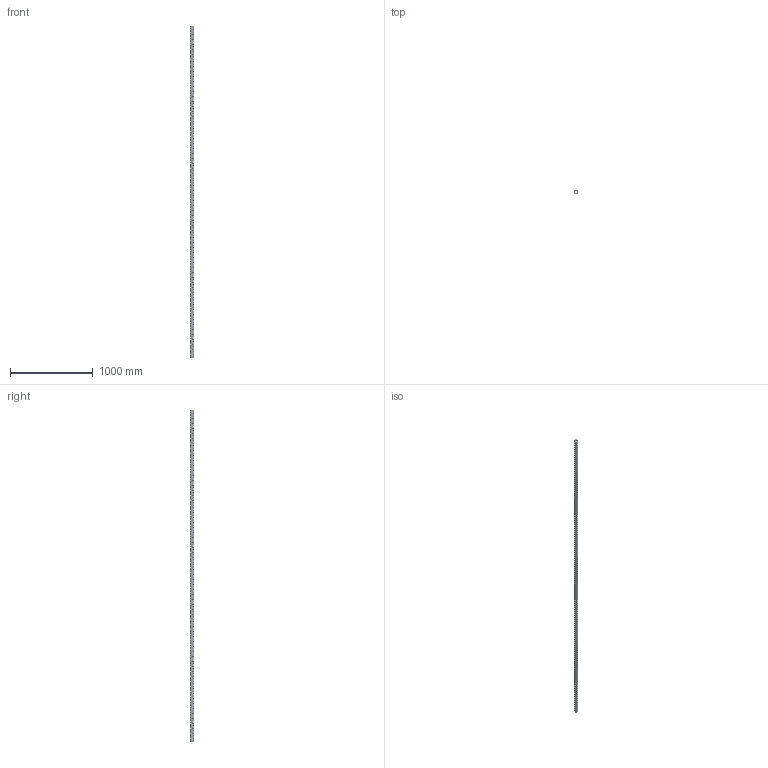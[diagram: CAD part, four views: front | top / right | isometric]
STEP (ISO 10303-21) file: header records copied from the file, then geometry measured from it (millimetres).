
FILE_DESCRIPTION(('CATIA V5 STEP Exchange'),'2;1');
FILE_NAME('U:\Room\唐宝山\EGT002\46-01-010363-01-EGT002-4018.stp','2021-08-25T01:10:49+00:00',('none'),('none'),'CATIA Version 5 Release 21 GA (IN-10)','CATIA V5 STEP AP203','none');
FILE_SCHEMA(('CONFIG_CONTROL_DESIGN'));
Products named in the file (1): 46-01-010363-01-EGT002-4018
Bounding box: 50 x 50 x 4018 mm (x, y, z)
Volume: 2863065 mm3; surface area: 1378499.3 mm2
Topology: 1 solids, 1 shells, 5444 faces, 14986 edges, 9276 vertices
Faces by surface type: cone 3216, cylinder 2202, plane 26
Entity records: 220705 total; most frequent: CARTESIAN_POINT 88544, ORIENTED_EDGE 29972, DIRECTION 21402, EDGE_CURVE 14986, AXIS2_PLACEMENT_3D 10201, VERTEX_POINT 9276, EDGE_LOOP 7322, VECTOR 5758
